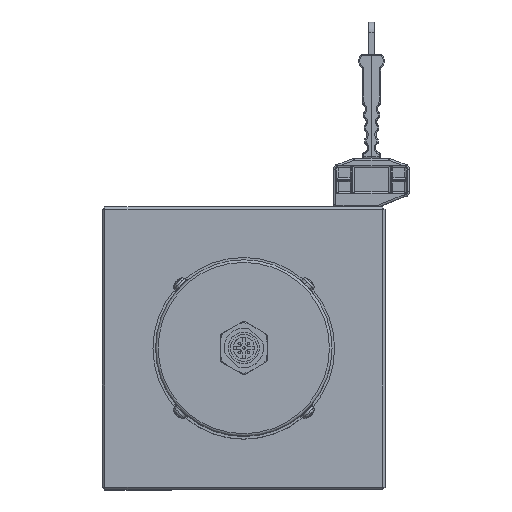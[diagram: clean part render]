
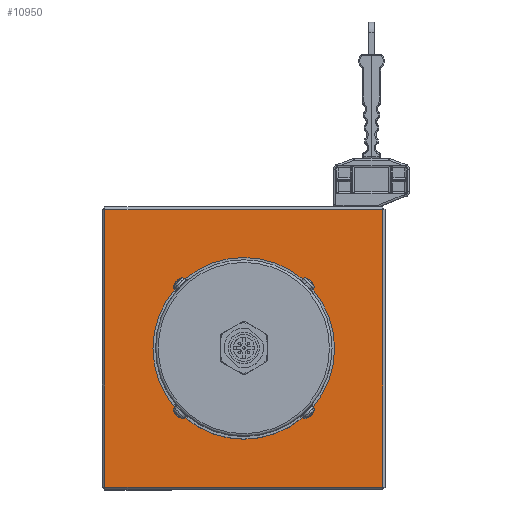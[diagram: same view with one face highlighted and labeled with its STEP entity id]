
A CAD part, top view. The second image highlights one B-rep face of the part: STEP entity #10950.
In plain terms, the highlighted planar face has unit normal (0, 0, 1).
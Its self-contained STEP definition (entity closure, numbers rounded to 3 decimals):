
#10900=CARTESIAN_POINT('',(-45.524,-4.243,6.919));
#10901=DIRECTION('',(0.0,0.0,1.0));
#10902=DIRECTION('',(1.0,0.0,0.0));
#10903=AXIS2_PLACEMENT_3D('',#10900,#10901,#10902);
#10904=PLANE('',#10903);
#10905=CARTESIAN_POINT('',(-99.024,-57.743,6.919));
#10906=VERTEX_POINT('',#10905);
#10907=CARTESIAN_POINT('',(-99.024,49.257,6.919));
#10908=VERTEX_POINT('',#10907);
#10909=CARTESIAN_POINT('',(-99.024,-57.743,6.919));
#10910=DIRECTION('',(0.0,1.0,0.0));
#10911=VECTOR('',#10910,107.);
#10912=LINE('',#10909,#10911);
#10913=EDGE_CURVE('',#10906,#10908,#10912,.T.);
#10914=ORIENTED_EDGE('',*,*,#10913,.F.);
#10915=CARTESIAN_POINT('',(7.976,-57.743,6.919));
#10916=VERTEX_POINT('',#10915);
#10917=CARTESIAN_POINT('',(7.976,-57.743,6.919));
#10918=DIRECTION('',(-1.0,0.0,0.0));
#10919=VECTOR('',#10918,107.);
#10920=LINE('',#10917,#10919);
#10921=EDGE_CURVE('',#10916,#10906,#10920,.T.);
#10922=ORIENTED_EDGE('',*,*,#10921,.F.);
#10923=CARTESIAN_POINT('',(7.976,49.257,6.919));
#10924=VERTEX_POINT('',#10923);
#10925=CARTESIAN_POINT('',(7.976,49.257,6.919));
#10926=DIRECTION('',(0.0,-1.0,0.0));
#10927=VECTOR('',#10926,107.);
#10928=LINE('',#10925,#10927);
#10929=EDGE_CURVE('',#10924,#10916,#10928,.T.);
#10930=ORIENTED_EDGE('',*,*,#10929,.F.);
#10931=CARTESIAN_POINT('',(-99.024,49.257,6.919));
#10932=DIRECTION('',(1.0,0.0,0.0));
#10933=VECTOR('',#10932,107.0);
#10934=LINE('',#10931,#10933);
#10935=EDGE_CURVE('',#10908,#10924,#10934,.T.);
#10936=ORIENTED_EDGE('',*,*,#10935,.F.);
#10937=EDGE_LOOP('',(#10914,#10922,#10930,#10936));
#10938=FACE_OUTER_BOUND('',#10937,.T.);
#10939=CARTESIAN_POINT('',(-45.524,-39.243,6.919));
#10940=VERTEX_POINT('',#10939);
#10941=CARTESIAN_POINT('',(-45.524,-4.243,6.919));
#10942=DIRECTION('',(0.0,0.0,1.0));
#10943=DIRECTION('',(0.0,1.0,0.0));
#10944=AXIS2_PLACEMENT_3D('',#10941,#10942,#10943);
#10945=CIRCLE('',#10944,35.0);
#10946=EDGE_CURVE('',#10940,#10940,#10945,.T.);
#10947=ORIENTED_EDGE('',*,*,#10946,.F.);
#10948=EDGE_LOOP('',(#10947));
#10949=FACE_BOUND('',#10948,.T.);
#10950=ADVANCED_FACE('',(#10938,#10949),#10904,.T.);
